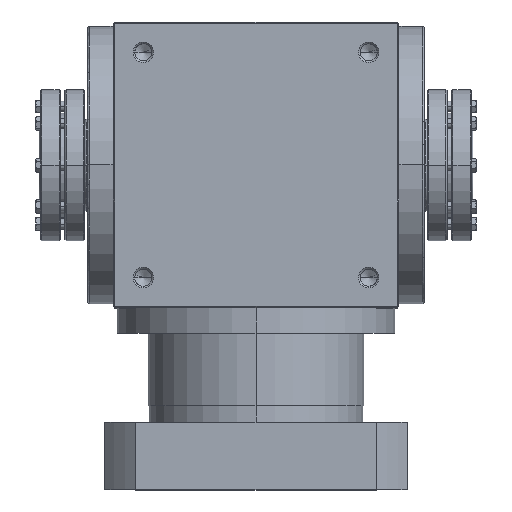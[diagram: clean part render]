
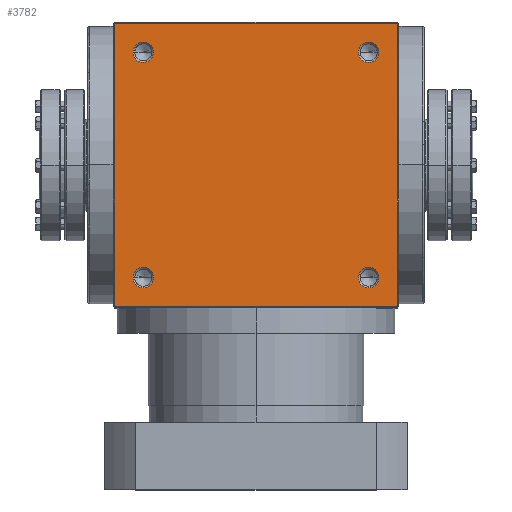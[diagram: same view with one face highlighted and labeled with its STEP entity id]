
A CAD part, top view. The second image highlights one B-rep face of the part: STEP entity #3782.
In plain terms, the highlighted planar face has unit normal (0, 0, 1).
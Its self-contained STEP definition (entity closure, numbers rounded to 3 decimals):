
#144 = DIRECTION ( 'NONE',  ( 1., 0., 0. ) ) ;
#383 = CARTESIAN_POINT ( 'NONE',  ( -67., -67., 85. ) ) ;
#385 = DIRECTION ( 'NONE',  ( 0., 0., 1. ) ) ;
#416 = CARTESIAN_POINT ( 'NONE',  ( -84., 84., 85. ) ) ;
#497 = CARTESIAN_POINT ( 'NONE',  ( -84., -84., 85. ) ) ;
#539 = AXIS2_PLACEMENT_3D ( 'NONE', #9527, #14201, #5130 ) ;
#550 = EDGE_CURVE ( 'NONE', #11629, #6733, #4926, .T. ) ;
#552 = AXIS2_PLACEMENT_3D ( 'NONE', #11423, #9341, #7041 ) ;
#586 = LINE ( 'NONE', #1558, #9122 ) ;
#692 = AXIS2_PLACEMENT_3D ( 'NONE', #13841, #10493, #3735 ) ;
#834 = EDGE_CURVE ( 'NONE', #12206, #8012, #6633, .T. ) ;
#945 = ORIENTED_EDGE ( 'NONE', *, *, #6224, .F. ) ;
#1125 = EDGE_CURVE ( 'NONE', #9034, #2879, #11811, .T. ) ;
#1523 = CIRCLE ( 'NONE', #12446, 6.1 ) ;
#1558 = CARTESIAN_POINT ( 'NONE',  ( 0., 84., 85. ) ) ;
#1594 = ORIENTED_EDGE ( 'NONE', *, *, #1125, .F. ) ;
#1759 = ORIENTED_EDGE ( 'NONE', *, *, #7212, .F. ) ;
#1911 = EDGE_CURVE ( 'NONE', #5912, #7012, #9241, .T. ) ;
#1954 = CARTESIAN_POINT ( 'NONE',  ( -67., -67., 85. ) ) ;
#2015 = DIRECTION ( 'NONE',  ( 0., 0., -1. ) ) ;
#2158 = FACE_BOUND ( 'NONE', #10807, .T. ) ;
#2170 = CARTESIAN_POINT ( 'NONE',  ( -67., 67., 85. ) ) ;
#2410 = ORIENTED_EDGE ( 'NONE', *, *, #13395, .T. ) ;
#2501 = CARTESIAN_POINT ( 'NONE',  ( -73.1, 67., 85. ) ) ;
#2542 = DIRECTION ( 'NONE',  ( 1., 0., 0. ) ) ;
#2553 = AXIS2_PLACEMENT_3D ( 'NONE', #2170, #10125, #6706 ) ;
#2636 = DIRECTION ( 'NONE',  ( 0., -1., 0. ) ) ;
#2747 = DIRECTION ( 'NONE',  ( 1., 0., 0. ) ) ;
#2879 = VERTEX_POINT ( 'NONE', #2501 ) ;
#3129 = PLANE ( 'NONE',  #12383 ) ;
#3573 = ORIENTED_EDGE ( 'NONE', *, *, #5399, .F. ) ;
#3713 = CARTESIAN_POINT ( 'NONE',  ( 0., -84., 85. ) ) ;
#3735 = DIRECTION ( 'NONE',  ( 1., 0., 0. ) ) ;
#3745 = CARTESIAN_POINT ( 'NONE',  ( 73.1, 67., 85. ) ) ;
#3782 = ADVANCED_FACE ( 'NONE', ( #2158, #14653, #4463, #8856, #13457 ), #3129, .F. ) ;
#3884 = CARTESIAN_POINT ( 'NONE',  ( 67., 67., 85. ) ) ;
#4285 = VERTEX_POINT ( 'NONE', #3745 ) ;
#4463 = FACE_BOUND ( 'NONE', #7581, .T. ) ;
#4488 = VERTEX_POINT ( 'NONE', #10137 ) ;
#4634 = CARTESIAN_POINT ( 'NONE',  ( 84., 84., 85. ) ) ;
#4719 = EDGE_CURVE ( 'NONE', #2879, #9034, #6726, .T. ) ;
#4771 = ORIENTED_EDGE ( 'NONE', *, *, #12951, .F. ) ;
#4867 = CIRCLE ( 'NONE', #13192, 6.1 ) ;
#4926 = LINE ( 'NONE', #8289, #6141 ) ;
#5130 = DIRECTION ( 'NONE',  ( 1., 0., 0. ) ) ;
#5348 = VERTEX_POINT ( 'NONE', #5558 ) ;
#5399 = EDGE_CURVE ( 'NONE', #5348, #4285, #6963, .T. ) ;
#5558 = CARTESIAN_POINT ( 'NONE',  ( 60.9, 67., 85. ) ) ;
#5743 = DIRECTION ( 'NONE',  ( 0., 0., 1. ) ) ;
#5912 = VERTEX_POINT ( 'NONE', #497 ) ;
#6141 = VECTOR ( 'NONE', #2636, 1000. ) ;
#6186 = EDGE_LOOP ( 'NONE', ( #2410, #12705, #9524, #13142 ) ) ;
#6224 = EDGE_CURVE ( 'NONE', #11879, #4488, #9336, .T. ) ;
#6346 = DIRECTION ( 'NONE',  ( 1., 0., 0. ) ) ;
#6633 = CIRCLE ( 'NONE', #692, 6.1 ) ;
#6706 = DIRECTION ( 'NONE',  ( 1., 0., 0. ) ) ;
#6726 = CIRCLE ( 'NONE', #539, 6.1 ) ;
#6733 = VERTEX_POINT ( 'NONE', #7430 ) ;
#6764 = EDGE_CURVE ( 'NONE', #7012, #11629, #586, .T. ) ;
#6963 = CIRCLE ( 'NONE', #552, 6.1 ) ;
#7012 = VERTEX_POINT ( 'NONE', #416 ) ;
#7041 = DIRECTION ( 'NONE',  ( 1., 0., 0. ) ) ;
#7212 = EDGE_CURVE ( 'NONE', #4285, #5348, #9856, .T. ) ;
#7382 = CARTESIAN_POINT ( 'NONE',  ( 67., -67., 85. ) ) ;
#7430 = CARTESIAN_POINT ( 'NONE',  ( 84., -84., 85. ) ) ;
#7465 = CARTESIAN_POINT ( 'NONE',  ( -73.1, -67., 85. ) ) ;
#7581 = EDGE_LOOP ( 'NONE', ( #10774, #945 ) ) ;
#8012 = VERTEX_POINT ( 'NONE', #8157 ) ;
#8157 = CARTESIAN_POINT ( 'NONE',  ( 60.9, -67., 85. ) ) ;
#8198 = DIRECTION ( 'NONE',  ( 0., 1., 0. ) ) ;
#8257 = CARTESIAN_POINT ( 'NONE',  ( 73.1, -67., 85. ) ) ;
#8289 = CARTESIAN_POINT ( 'NONE',  ( 84., 0., 85. ) ) ;
#8537 = VECTOR ( 'NONE', #8198, 1000. ) ;
#8657 = DIRECTION ( 'NONE',  ( 1., 0., 0. ) ) ;
#8856 = FACE_BOUND ( 'NONE', #11482, .T. ) ;
#9034 = VERTEX_POINT ( 'NONE', #13295 ) ;
#9070 = ORIENTED_EDGE ( 'NONE', *, *, #834, .F. ) ;
#9122 = VECTOR ( 'NONE', #2747, 1000. ) ;
#9241 = LINE ( 'NONE', #11761, #8537 ) ;
#9336 = CIRCLE ( 'NONE', #13139, 6.1 ) ;
#9341 = DIRECTION ( 'NONE',  ( 0., 0., 1. ) ) ;
#9524 = ORIENTED_EDGE ( 'NONE', *, *, #6764, .F. ) ;
#9527 = CARTESIAN_POINT ( 'NONE',  ( -67., 67., 85. ) ) ;
#9856 = CIRCLE ( 'NONE', #12675, 6.1 ) ;
#9915 = DIRECTION ( 'NONE',  ( 0., 0., 1. ) ) ;
#10125 = DIRECTION ( 'NONE',  ( 0., 0., 1. ) ) ;
#10137 = CARTESIAN_POINT ( 'NONE',  ( -60.9, -67., 85. ) ) ;
#10493 = DIRECTION ( 'NONE',  ( 0., 0., 1. ) ) ;
#10774 = ORIENTED_EDGE ( 'NONE', *, *, #11844, .F. ) ;
#10807 = EDGE_LOOP ( 'NONE', ( #1594, #13493 ) ) ;
#11016 = DIRECTION ( 'NONE',  ( -1., 0., 0. ) ) ;
#11311 = EDGE_LOOP ( 'NONE', ( #1759, #3573 ) ) ;
#11423 = CARTESIAN_POINT ( 'NONE',  ( 67., 67., 85. ) ) ;
#11460 = DIRECTION ( 'NONE',  ( 1., 0., 0. ) ) ;
#11482 = EDGE_LOOP ( 'NONE', ( #9070, #4771 ) ) ;
#11582 = LINE ( 'NONE', #3713, #11771 ) ;
#11629 = VERTEX_POINT ( 'NONE', #4634 ) ;
#11761 = CARTESIAN_POINT ( 'NONE',  ( -84., 0., 85. ) ) ;
#11771 = VECTOR ( 'NONE', #144, 1000. ) ;
#11811 = CIRCLE ( 'NONE', #2553, 6.1 ) ;
#11844 = EDGE_CURVE ( 'NONE', #4488, #11879, #1523, .T. ) ;
#11879 = VERTEX_POINT ( 'NONE', #7465 ) ;
#11992 = DIRECTION ( 'NONE',  ( 0., 0., 1. ) ) ;
#12206 = VERTEX_POINT ( 'NONE', #8257 ) ;
#12383 = AXIS2_PLACEMENT_3D ( 'NONE', #13383, #2015, #11016 ) ;
#12446 = AXIS2_PLACEMENT_3D ( 'NONE', #1954, #9915, #6346 ) ;
#12675 = AXIS2_PLACEMENT_3D ( 'NONE', #3884, #385, #2542 ) ;
#12705 = ORIENTED_EDGE ( 'NONE', *, *, #550, .F. ) ;
#12951 = EDGE_CURVE ( 'NONE', #8012, #12206, #4867, .T. ) ;
#13139 = AXIS2_PLACEMENT_3D ( 'NONE', #383, #5743, #11460 ) ;
#13142 = ORIENTED_EDGE ( 'NONE', *, *, #1911, .F. ) ;
#13192 = AXIS2_PLACEMENT_3D ( 'NONE', #7382, #11992, #8657 ) ;
#13295 = CARTESIAN_POINT ( 'NONE',  ( -60.9, 67., 85. ) ) ;
#13383 = CARTESIAN_POINT ( 'NONE',  ( 84., -84., 85. ) ) ;
#13395 = EDGE_CURVE ( 'NONE', #5912, #6733, #11582, .T. ) ;
#13457 = FACE_OUTER_BOUND ( 'NONE', #6186, .T. ) ;
#13493 = ORIENTED_EDGE ( 'NONE', *, *, #4719, .F. ) ;
#13841 = CARTESIAN_POINT ( 'NONE',  ( 67., -67., 85. ) ) ;
#14201 = DIRECTION ( 'NONE',  ( 0., 0., 1. ) ) ;
#14653 = FACE_BOUND ( 'NONE', #11311, .T. ) ;
